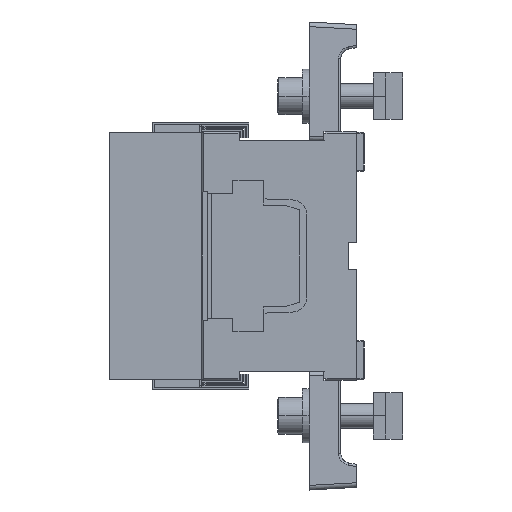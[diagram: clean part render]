
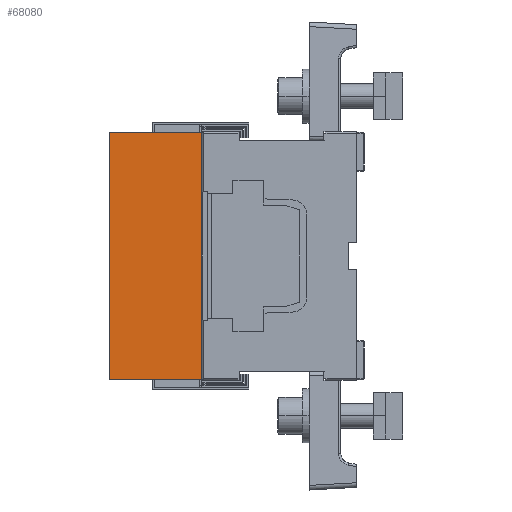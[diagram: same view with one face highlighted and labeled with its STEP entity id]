
A CAD part, left-side view. The second image highlights one B-rep face of the part: STEP entity #68080.
In plain terms, the highlighted planar face has unit normal (-1, 0, 0).
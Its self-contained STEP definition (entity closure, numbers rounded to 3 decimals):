
#187 = CARTESIAN_POINT ( 'NONE',  ( -47., -8., -42. ) ) ;
#2078 = CARTESIAN_POINT ( 'NONE',  ( -47., 0., 42. ) ) ;
#2877 = DIRECTION ( 'NONE',  ( 0., -1., 0. ) ) ;
#2913 = EDGE_LOOP ( 'NONE', ( #46456, #30779, #27274, #23882, #4084, #38905, #60055, #35174 ) ) ;
#3444 = DIRECTION ( 'NONE',  ( 0., 0., -1. ) ) ;
#3990 = PLANE ( 'NONE',  #70599 ) ;
#4084 = ORIENTED_EDGE ( 'NONE', *, *, #69378, .T. ) ;
#4582 = EDGE_CURVE ( 'NONE', #41404, #28932, #34839, .T. ) ;
#4815 = CARTESIAN_POINT ( 'NONE',  ( -47., 0., -80. ) ) ;
#6140 = CARTESIAN_POINT ( 'NONE',  ( -47., 60., 80. ) ) ;
#9498 = EDGE_CURVE ( 'NONE', #41404, #33887, #22939, .T. ) ;
#9602 = LINE ( 'NONE', #4815, #62308 ) ;
#10311 = EDGE_CURVE ( 'NONE', #72686, #43102, #19025, .T. ) ;
#10396 = VERTEX_POINT ( 'NONE', #22297 ) ;
#11614 = VECTOR ( 'NONE', #40039, 1000. ) ;
#12555 = VECTOR ( 'NONE', #2877, 1000. ) ;
#12566 = EDGE_CURVE ( 'NONE', #33887, #72686, #59325, .T. ) ;
#14165 = VERTEX_POINT ( 'NONE', #71839 ) ;
#14595 = DIRECTION ( 'NONE',  ( 0., -1., 0. ) ) ;
#16052 = VECTOR ( 'NONE', #3444, 1000. ) ;
#17161 = EDGE_CURVE ( 'NONE', #10396, #22699, #47686, .T. ) ;
#17759 = CARTESIAN_POINT ( 'NONE',  ( -47., 0., -80. ) ) ;
#18663 = EDGE_CURVE ( 'NONE', #22699, #43102, #69981, .T. ) ;
#18939 = CARTESIAN_POINT ( 'NONE',  ( -47., 0.3, -42. ) ) ;
#19025 = LINE ( 'NONE', #59051, #12555 ) ;
#19574 = CARTESIAN_POINT ( 'NONE',  ( -47., 0., 80. ) ) ;
#20485 = CARTESIAN_POINT ( 'NONE',  ( -47., 0., 80. ) ) ;
#20850 = DIRECTION ( 'NONE',  ( 0., 0., -1. ) ) ;
#22186 = VECTOR ( 'NONE', #44254, 1000. ) ;
#22297 = CARTESIAN_POINT ( 'NONE',  ( -47., 60., 80. ) ) ;
#22699 = VERTEX_POINT ( 'NONE', #39128 ) ;
#22939 = LINE ( 'NONE', #187, #47423 ) ;
#23882 = ORIENTED_EDGE ( 'NONE', *, *, #17161, .F. ) ;
#24410 = CARTESIAN_POINT ( 'NONE',  ( -47., 0., -42. ) ) ;
#25730 = DIRECTION ( 'NONE',  ( 0., -1., 0. ) ) ;
#27274 = ORIENTED_EDGE ( 'NONE', *, *, #18663, .F. ) ;
#28504 = DIRECTION ( 'NONE',  ( 0., 0., -1. ) ) ;
#28932 = VERTEX_POINT ( 'NONE', #17759 ) ;
#29912 = CARTESIAN_POINT ( 'NONE',  ( -47., 0.3, 42. ) ) ;
#30779 = ORIENTED_EDGE ( 'NONE', *, *, #10311, .T. ) ;
#33887 = VERTEX_POINT ( 'NONE', #18939 ) ;
#34839 = LINE ( 'NONE', #57614, #11614 ) ;
#35174 = ORIENTED_EDGE ( 'NONE', *, *, #9498, .T. ) ;
#36108 = VECTOR ( 'NONE', #14595, 1000. ) ;
#36276 = CARTESIAN_POINT ( 'NONE',  ( -47., 0., 80. ) ) ;
#38905 = ORIENTED_EDGE ( 'NONE', *, *, #67561, .T. ) ;
#39128 = CARTESIAN_POINT ( 'NONE',  ( -47., 0., 80. ) ) ;
#40039 = DIRECTION ( 'NONE',  ( 0., 0., -1. ) ) ;
#41404 = VERTEX_POINT ( 'NONE', #24410 ) ;
#42919 = DIRECTION ( 'NONE',  ( 1., 0., 0. ) ) ;
#43102 = VERTEX_POINT ( 'NONE', #2078 ) ;
#44254 = DIRECTION ( 'NONE',  ( 0., 0., 1. ) ) ;
#46456 = ORIENTED_EDGE ( 'NONE', *, *, #12566, .T. ) ;
#47423 = VECTOR ( 'NONE', #61518, 1000. ) ;
#47686 = LINE ( 'NONE', #36276, #36108 ) ;
#53802 = CARTESIAN_POINT ( 'NONE',  ( -47., 0.3, 42. ) ) ;
#57614 = CARTESIAN_POINT ( 'NONE',  ( -47., 0., 80. ) ) ;
#59051 = CARTESIAN_POINT ( 'NONE',  ( -47., -8., 42. ) ) ;
#59325 = LINE ( 'NONE', #53802, #22186 ) ;
#60055 = ORIENTED_EDGE ( 'NONE', *, *, #4582, .F. ) ;
#61518 = DIRECTION ( 'NONE',  ( 0., 1., 0. ) ) ;
#62308 = VECTOR ( 'NONE', #25730, 1000. ) ;
#67561 = EDGE_CURVE ( 'NONE', #14165, #28932, #9602, .T. ) ;
#68080 = ADVANCED_FACE ( 'NONE', ( #71248 ), #3990, .F. ) ;
#69378 = EDGE_CURVE ( 'NONE', #10396, #14165, #72275, .T. ) ;
#69981 = LINE ( 'NONE', #19574, #16052 ) ;
#70599 = AXIS2_PLACEMENT_3D ( 'NONE', #20485, #42919, #20850 ) ;
#70801 = VECTOR ( 'NONE', #28504, 1000. ) ;
#71248 = FACE_OUTER_BOUND ( 'NONE', #2913, .T. ) ;
#71839 = CARTESIAN_POINT ( 'NONE',  ( -47., 60., -80. ) ) ;
#72275 = LINE ( 'NONE', #6140, #70801 ) ;
#72686 = VERTEX_POINT ( 'NONE', #29912 ) ;
